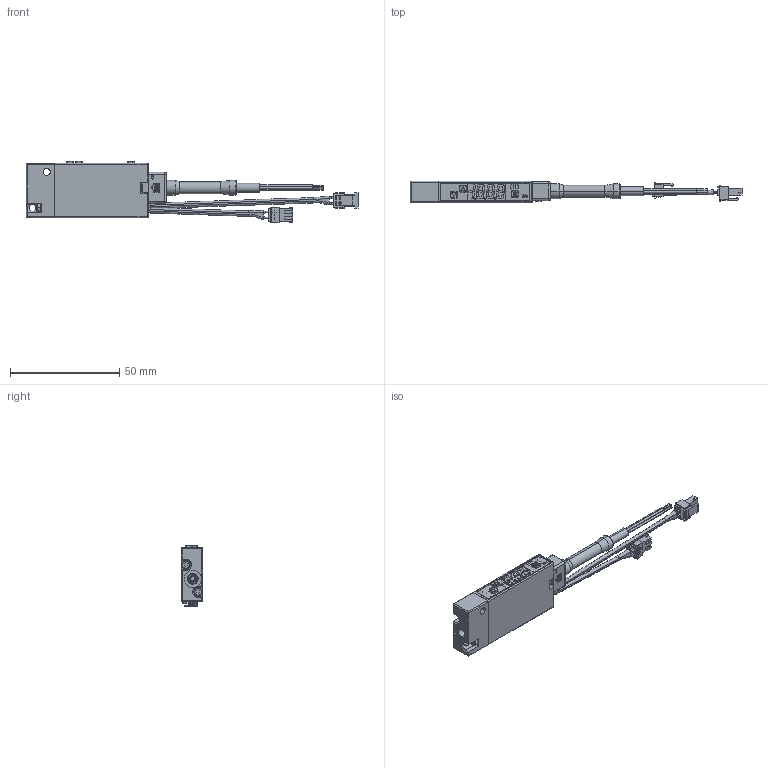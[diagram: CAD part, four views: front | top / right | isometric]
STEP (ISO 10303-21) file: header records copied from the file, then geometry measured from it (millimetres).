
FILE_DESCRIPTION((''),'2;1');
FILE_NAME('KP93_M5PORT_ASM','2022-11-18T',('tommy'),(''),'CREO PARAMETRIC BY PTC INC, 2014500','CREO PARAMETRIC BY PTC INC, 2014500','');
FILE_SCHEMA(('CONFIG_CONTROL_DESIGN'));
Products named in the file (15): KP93_M5; W-0074-KP92; CN-0048; P-0666_OGYA; CN-0048-04_ASM; SHR-04V-S; W; W-2; SMC-SY100-CONNECTOR; EO-00XX-1; W-3; W-4; EO-00XX-2; CN-0074-02-JSD-SMC_ASM; KP93_M5PORT_ASM
Assembly tree (15 placements, depth 3):
  KP93_M5PORT_ASM
    KP93_M5
    CN-0048-04_ASM
      W-0074-KP92
      CN-0048
      P-0666_OGYA
    CN-0074-02-JSD-SMC_ASM
      SHR-04V-S
      W
      W-2
      SMC-SY100-CONNECTOR  x2
      EO-00XX-1
      W-3
      W-4
      EO-00XX-2
Bounding box: 152.2 x 10 x 28.37 mm (x, y, z)
Volume: 11782.4 mm3; surface area: 20209.1 mm2
Topology: 14 solids, 14 shells, 3540 faces, 9383 edges, 6128 vertices
Faces by surface type: plane 2898, cylinder 446, cone 69, torus 60, bspline 58, sphere 9
Entity records: 110982 total; most frequent: CARTESIAN_POINT 25029, ORIENTED_EDGE 18110, DIRECTION 16758, EDGE_CURVE 9055, VECTOR 7780, LINE 7780, VERTEX_POINT 5914, AXIS2_PLACEMENT_3D 4489
